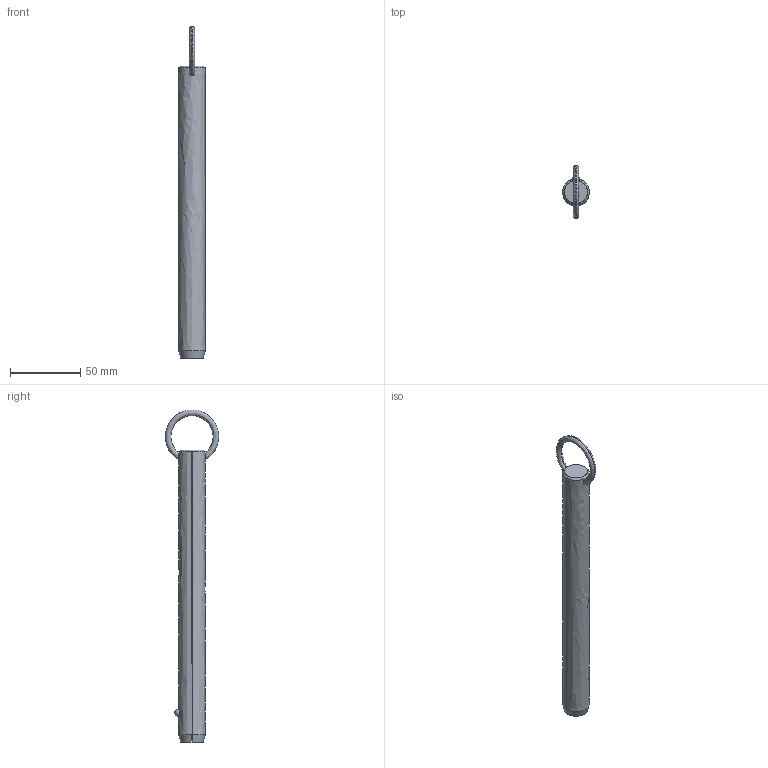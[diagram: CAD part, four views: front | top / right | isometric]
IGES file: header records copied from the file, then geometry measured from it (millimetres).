
Start section: SolidWorks IGES file using analytic representation for surfaces
Global section: file name: C:\Users\liam_\OneDrive\Documents\WORK\Work for WixRoyd\Job Files\J-00019 - Matt Davis CAD Checking\04. CAD Drawings\automotion20190605\P1250.2_v2\P1250.2_v2_20190729_IGES\P1250.075-690.igs; native system: SolidWorks 2017; preprocessor: SolidWorks 2017; author: liam_; date: 190730.000101; units: millimetre
Bounding box: 19 x 38.1 x 237.09 mm (x, y, z)
Surface area: 13978.2 mm2 (no closed solid volume)
Topology: 0 solids, 0 shells, 12 faces, 294 edges, 292 vertices
Faces by surface type: revolution 8, bspline 4
